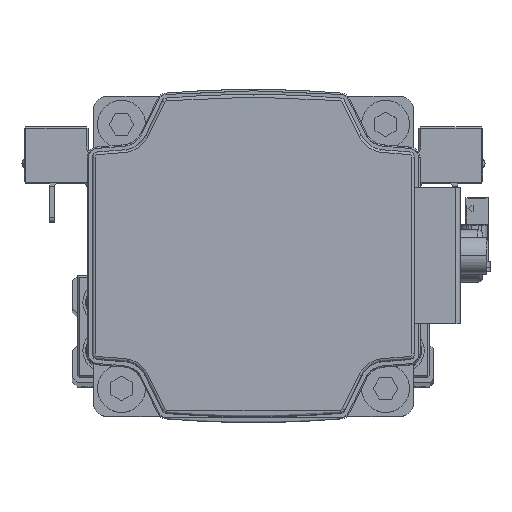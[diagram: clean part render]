
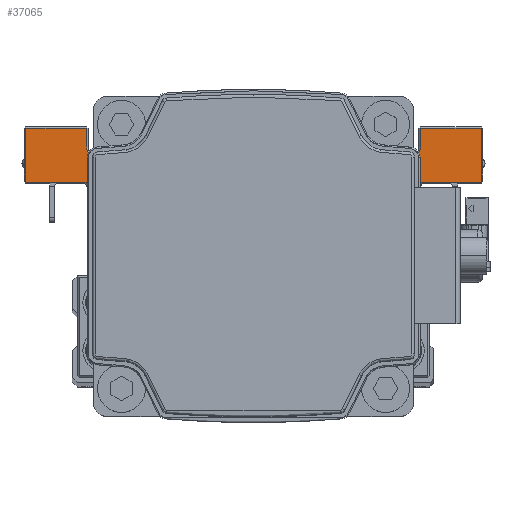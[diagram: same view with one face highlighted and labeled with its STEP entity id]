
A CAD part, top view. The second image highlights one B-rep face of the part: STEP entity #37065.
In plain terms, the highlighted planar face has unit normal (0, 0, 1) as drawn and (1, 0, 0) by its records, which use the part's own axes.
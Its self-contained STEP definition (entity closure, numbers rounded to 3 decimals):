
#580 = ORIENTED_EDGE ( 'NONE', *, *, #4817, .T. ) ;
#616 = ORIENTED_EDGE ( 'NONE', *, *, #28546, .T. ) ;
#854 = AXIS2_PLACEMENT_3D ( 'NONE', #5419, #17880, #30330 ) ;
#1640 = LINE ( 'NONE', #14100, #25674 ) ;
#1738 = CARTESIAN_POINT ( 'NONE',  ( 25.5, 14., -30. ) ) ;
#1991 = LINE ( 'NONE', #14441, #30921 ) ;
#2191 = CARTESIAN_POINT ( 'NONE',  ( 25.5, 7.5, -31.3 ) ) ;
#2558 = CARTESIAN_POINT ( 'NONE',  ( 25.5, 17.7, -42.7 ) ) ;
#2912 = CARTESIAN_POINT ( 'NONE',  ( 25.5, -7.5, -15. ) ) ;
#2930 = CARTESIAN_POINT ( 'NONE',  ( 25.5, 5.5, 17. ) ) ;
#3172 = CARTESIAN_POINT ( 'NONE',  ( 25.5, 7.5, 31.3 ) ) ;
#3544 = DIRECTION ( 'NONE',  ( 0., -1., 0. ) ) ;
#3676 = VECTOR ( 'NONE', #12447, 1000. ) ;
#4140 = EDGE_CURVE ( 'NONE', #18348, #4512, #1640, .T. ) ;
#4452 = ORIENTED_EDGE ( 'NONE', *, *, #23968, .T. ) ;
#4512 = VERTEX_POINT ( 'NONE', #34894 ) ;
#4633 = EDGE_CURVE ( 'NONE', #8777, #28604, #1991, .T. ) ;
#4817 = EDGE_CURVE ( 'NONE', #14247, #15708, #34655, .T. ) ;
#4900 = AXIS2_PLACEMENT_3D ( 'NONE', #1738, #14204, #26666 ) ;
#5419 = CARTESIAN_POINT ( 'NONE',  ( 25.5, 7.5, -15. ) ) ;
#5897 = CARTESIAN_POINT ( 'NONE',  ( 25.5, 14., 30. ) ) ;
#6159 = VERTEX_POINT ( 'NONE', #7877 ) ;
#6285 = DIRECTION ( 'NONE',  ( -1., 0., 0. ) ) ;
#6665 = CARTESIAN_POINT ( 'NONE',  ( 25.5, 17.7, -15. ) ) ;
#7158 = VECTOR ( 'NONE', #36399, 1000. ) ;
#7321 = EDGE_CURVE ( 'NONE', #4512, #23831, #19077, .T. ) ;
#7514 = CARTESIAN_POINT ( 'NONE',  ( 25.5, 7.5, -42.7 ) ) ;
#7651 = CARTESIAN_POINT ( 'NONE',  ( 25.5, 5.5, -15. ) ) ;
#7683 = VECTOR ( 'NONE', #3544, 1000. ) ;
#7877 = CARTESIAN_POINT ( 'NONE',  ( 25.5, 14., 31.3 ) ) ;
#8439 = CIRCLE ( 'NONE', #31273, 2. ) ;
#8768 = AXIS2_PLACEMENT_3D ( 'NONE', #5897, #18367, #30802 ) ;
#8777 = VERTEX_POINT ( 'NONE', #14966 ) ;
#9111 = CARTESIAN_POINT ( 'NONE',  ( 25.5, 7.5, 43. ) ) ;
#9207 = VERTEX_POINT ( 'NONE', #24118 ) ;
#9533 = ORIENTED_EDGE ( 'NONE', *, *, #40100, .T. ) ;
#10556 = CARTESIAN_POINT ( 'NONE',  ( 25.5, 12.7, 30. ) ) ;
#11067 = VERTEX_POINT ( 'NONE', #31557 ) ;
#11112 = CARTESIAN_POINT ( 'NONE',  ( 25.5, 7.5, -17. ) ) ;
#11457 = LINE ( 'NONE', #23944, #7158 ) ;
#11985 = CARTESIAN_POINT ( 'NONE',  ( 25.5, 7.5, 42.7 ) ) ;
#12447 = DIRECTION ( 'NONE',  ( 0., 0., -1. ) ) ;
#12458 = CARTESIAN_POINT ( 'NONE',  ( 25.5, 17.7, -31.3 ) ) ;
#12762 = ORIENTED_EDGE ( 'NONE', *, *, #4633, .T. ) ;
#13269 = ORIENTED_EDGE ( 'NONE', *, *, #20795, .F. ) ;
#13771 = VERTEX_POINT ( 'NONE', #14631 ) ;
#14100 = CARTESIAN_POINT ( 'NONE',  ( 25.5, 17.7, -15. ) ) ;
#14204 = DIRECTION ( 'NONE',  ( -1., 0., 0. ) ) ;
#14247 = VERTEX_POINT ( 'NONE', #2558 ) ;
#14331 = EDGE_CURVE ( 'NONE', #6159, #18348, #31144, .T. ) ;
#14441 = CARTESIAN_POINT ( 'NONE',  ( 25.5, 7.5, 15. ) ) ;
#14631 = CARTESIAN_POINT ( 'NONE',  ( 25.5, 7.5, -42.7 ) ) ;
#14644 = DIRECTION ( 'NONE',  ( 0., -1., 0. ) ) ;
#14812 = ORIENTED_EDGE ( 'NONE', *, *, #36920, .T. ) ;
#14966 = CARTESIAN_POINT ( 'NONE',  ( 25.5, 5.5, 15. ) ) ;
#15110 = LINE ( 'NONE', #27560, #30974 ) ;
#15401 = DIRECTION ( 'NONE',  ( -1., 0., 0. ) ) ;
#15635 = DIRECTION ( 'NONE',  ( 0., 1., 0. ) ) ;
#15708 = VERTEX_POINT ( 'NONE', #12458 ) ;
#17547 = ORIENTED_EDGE ( 'NONE', *, *, #21999, .T. ) ;
#17880 = DIRECTION ( 'NONE',  ( -1., 0., 0. ) ) ;
#18031 = VECTOR ( 'NONE', #20002, 1000. ) ;
#18105 = ORIENTED_EDGE ( 'NONE', *, *, #33270, .T. ) ;
#18348 = VERTEX_POINT ( 'NONE', #32271 ) ;
#18367 = DIRECTION ( 'NONE',  ( -1., 0., 0. ) ) ;
#18772 = DIRECTION ( 'NONE',  ( 0., 0., 1. ) ) ;
#19077 = LINE ( 'NONE', #31521, #7683 ) ;
#19129 = DIRECTION ( 'NONE',  ( 0., 0., 1. ) ) ;
#19480 = ORIENTED_EDGE ( 'NONE', *, *, #29247, .T. ) ;
#20002 = DIRECTION ( 'NONE',  ( 0., 1., 0. ) ) ;
#20795 = EDGE_CURVE ( 'NONE', #34814, #24817, #15110, .T. ) ;
#20954 = FACE_OUTER_BOUND ( 'NONE', #29357, .T. ) ;
#21085 = ORIENTED_EDGE ( 'NONE', *, *, #25593, .T. ) ;
#21563 = DIRECTION ( 'NONE',  ( 0., 0., -1. ) ) ;
#21999 = EDGE_CURVE ( 'NONE', #23831, #9207, #27993, .T. ) ;
#22512 = CIRCLE ( 'NONE', #4900, 1.3 ) ;
#22626 = AXIS2_PLACEMENT_3D ( 'NONE', #34259, #6285, #18772 ) ;
#23023 = DIRECTION ( 'NONE',  ( 0., 0., 1. ) ) ;
#23035 = ORIENTED_EDGE ( 'NONE', *, *, #28167, .T. ) ;
#23831 = VERTEX_POINT ( 'NONE', #11985 ) ;
#23944 = CARTESIAN_POINT ( 'NONE',  ( 25.5, -7.5, -15. ) ) ;
#23968 = EDGE_CURVE ( 'NONE', #34814, #37452, #40224, .T. ) ;
#24118 = CARTESIAN_POINT ( 'NONE',  ( 25.5, 7.5, 17. ) ) ;
#24546 = CARTESIAN_POINT ( 'NONE',  ( 25.5, -7.5, 15. ) ) ;
#24659 = VECTOR ( 'NONE', #14644, 1000. ) ;
#24817 = VERTEX_POINT ( 'NONE', #2912 ) ;
#25231 = VECTOR ( 'NONE', #21563, 1000. ) ;
#25593 = EDGE_CURVE ( 'NONE', #37452, #13771, #37093, .T. ) ;
#25674 = VECTOR ( 'NONE', #26572, 1000. ) ;
#26396 = CIRCLE ( 'NONE', #8768, 1.3 ) ;
#26572 = DIRECTION ( 'NONE',  ( 0., 0., 1. ) ) ;
#26666 = DIRECTION ( 'NONE',  ( 0., 0., 1. ) ) ;
#26895 = DIRECTION ( 'NONE',  ( 0., -1., 0. ) ) ;
#27513 = VERTEX_POINT ( 'NONE', #38548 ) ;
#27560 = CARTESIAN_POINT ( 'NONE',  ( 25.5, 7.5, -15. ) ) ;
#27872 = DIRECTION ( 'NONE',  ( 0., 0., 1. ) ) ;
#27993 = LINE ( 'NONE', #40390, #3676 ) ;
#28167 = EDGE_CURVE ( 'NONE', #9207, #8777, #8439, .T. ) ;
#28546 = EDGE_CURVE ( 'NONE', #28604, #24817, #11457, .T. ) ;
#28604 = VERTEX_POINT ( 'NONE', #24546 ) ;
#29187 = ORIENTED_EDGE ( 'NONE', *, *, #7321, .T. ) ;
#29247 = EDGE_CURVE ( 'NONE', #31221, #11067, #22512, .T. ) ;
#29357 = EDGE_LOOP ( 'NONE', ( #21085, #31280, #580, #18105, #19480, #14812, #9533, #36200, #31193, #29187, #17547, #23035, #12762, #616, #13269, #4452 ) ) ;
#29538 = VECTOR ( 'NONE', #23023, 1000. ) ;
#30161 = LINE ( 'NONE', #2191, #24659 ) ;
#30270 = VECTOR ( 'NONE', #19129, 1000. ) ;
#30330 = DIRECTION ( 'NONE',  ( 0., 0., 1. ) ) ;
#30802 = DIRECTION ( 'NONE',  ( 0., 0., 1. ) ) ;
#30921 = VECTOR ( 'NONE', #26895, 1000. ) ;
#30974 = VECTOR ( 'NONE', #40014, 1000. ) ;
#31144 = LINE ( 'NONE', #3172, #35901 ) ;
#31193 = ORIENTED_EDGE ( 'NONE', *, *, #4140, .T. ) ;
#31221 = VERTEX_POINT ( 'NONE', #34751 ) ;
#31273 = AXIS2_PLACEMENT_3D ( 'NONE', #2930, #15401, #27872 ) ;
#31280 = ORIENTED_EDGE ( 'NONE', *, *, #31793, .T. ) ;
#31521 = CARTESIAN_POINT ( 'NONE',  ( 25.5, 7.5, 42.7 ) ) ;
#31557 = CARTESIAN_POINT ( 'NONE',  ( 25.5, 12.7, -30. ) ) ;
#31793 = EDGE_CURVE ( 'NONE', #13771, #14247, #35496, .T. ) ;
#32271 = CARTESIAN_POINT ( 'NONE',  ( 25.5, 17.7, 31.3 ) ) ;
#33270 = EDGE_CURVE ( 'NONE', #15708, #31221, #30161, .T. ) ;
#33391 = PLANE ( 'NONE',  #854 ) ;
#34259 = CARTESIAN_POINT ( 'NONE',  ( 25.5, 5.5, -17. ) ) ;
#34655 = LINE ( 'NONE', #6665, #30270 ) ;
#34751 = CARTESIAN_POINT ( 'NONE',  ( 25.5, 14., -31.3 ) ) ;
#34814 = VERTEX_POINT ( 'NONE', #7651 ) ;
#34894 = CARTESIAN_POINT ( 'NONE',  ( 25.5, 17.7, 42.7 ) ) ;
#35496 = LINE ( 'NONE', #7514, #18031 ) ;
#35901 = VECTOR ( 'NONE', #15635, 1000. ) ;
#36200 = ORIENTED_EDGE ( 'NONE', *, *, #14331, .T. ) ;
#36399 = DIRECTION ( 'NONE',  ( 0., 0., -1. ) ) ;
#36920 = EDGE_CURVE ( 'NONE', #11067, #27513, #38536, .T. ) ;
#37065 = ADVANCED_FACE ( 'NONE', ( #20954 ), #33391, .F. ) ;
#37093 = LINE ( 'NONE', #9111, #25231 ) ;
#37452 = VERTEX_POINT ( 'NONE', #11112 ) ;
#38536 = LINE ( 'NONE', #10556, #29538 ) ;
#38548 = CARTESIAN_POINT ( 'NONE',  ( 25.5, 12.7, 30. ) ) ;
#40014 = DIRECTION ( 'NONE',  ( 0., -1., 0. ) ) ;
#40100 = EDGE_CURVE ( 'NONE', #27513, #6159, #26396, .T. ) ;
#40224 = CIRCLE ( 'NONE', #22626, 2. ) ;
#40390 = CARTESIAN_POINT ( 'NONE',  ( 25.5, 7.5, 43. ) ) ;
